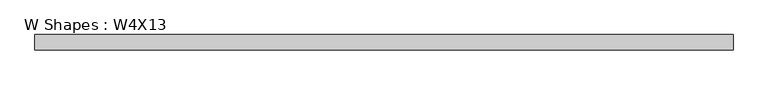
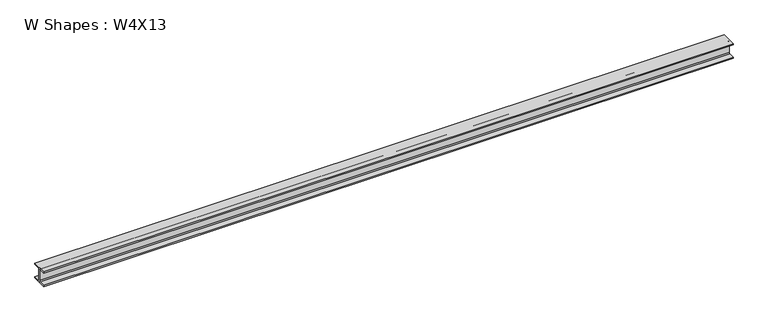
"""IFC4 building model written with IfcOpenShell, lengths in millimetres: beam geometry, W Shapes : W4X13."""

from ifc_helpers import new_model, si_unit, point, frame, frame_2d, origin, place, context, project, spatial, polyline, circle_curve, trimmed, segment, composite_curve, outline, extrude, source, transform, mapped, element, save


def w_shapes_w4x13_6f2b7de4(model_context):
    return source(origin(), model_context, "Body", "SweptSolid", [
        extrude(outline(composite_curve([segment(polyline([(51.562, -44.069), (51.562, -52.832), (-51.562, -52.832), (-51.562, -44.069), (-9.906, -44.069)]), True, "CONTINUOUS"), segment(trimmed(circle_curve(frame_2d((-9.906, -37.719)), 6.35), [point((-9.906, -44.069))], [point((-3.556, -37.719))], True, "CARTESIAN"), True, "CONTINUOUS"), segment(polyline([(-3.556, -37.719), (-3.556, 37.719)]), True, "CONTINUOUS"), segment(trimmed(circle_curve(frame_2d((-9.906, 37.719)), 6.35), [point((-3.556, 37.719))], [point((-9.906, 44.069))], True, "CARTESIAN"), True, "CONTINUOUS"), segment(polyline([(-9.906, 44.069), (-51.562, 44.069), (-51.562, 52.832), (51.562, 52.832), (51.562, 44.069), (9.906, 44.069)]), True, "CONTINUOUS"), segment(trimmed(circle_curve(frame_2d((9.906, 37.719)), 6.35), [point((9.906, 44.069))], [point((3.556, 37.719))], True, "CARTESIAN"), True, "CONTINUOUS"), segment(polyline([(3.556, 37.719), (3.556, -37.719)]), True, "CONTINUOUS"), segment(trimmed(circle_curve(frame_2d((9.906, -37.719)), 6.35), [point((3.556, -37.719))], [point((9.906, -44.069))], True, "CARTESIAN"), True, "CONTINUOUS"), segment(polyline([(9.906, -44.069), (51.562, -44.069)]), True, "CONTINUOUS")], self_intersect=False)), frame((-2345.182, 0.0, 0.0), z_axis=(1.0, 0.0, 0.0), x_axis=(0.0, 1.0, 0.0)), (0.0, 0.0, 1.0), 4690.364),
    ])


if __name__ == "__main__":
    model = new_model("IFC4")
    model_context = context("Model", 3, world=origin())
    ifc_project = project(units=[si_unit("LENGTHUNIT", "METRE", prefix="MILLI")], contexts=[model_context])
    site = spatial("IfcSite", under=ifc_project)
    building = spatial("IfcBuilding", under=site)
    placement = place(None, origin())
    w_shapes_w4x13_shape = w_shapes_w4x13_6f2b7de4(model_context)
    element("IfcBeam", 1, ObjectType="W Shapes : W4X13", at=placement, inside=building, context=model_context, shape_type="MappedRepresentation", body=[
        mapped(w_shapes_w4x13_shape, transform((0.0, 0.0, 0.0), x_axis=(1.0, 0.0, 0.0), y_axis=(0.0, 1.0, 0.0), z_axis=(0.0, 0.0, 1.0))),
    ])
    save(model, "model.ifc")
